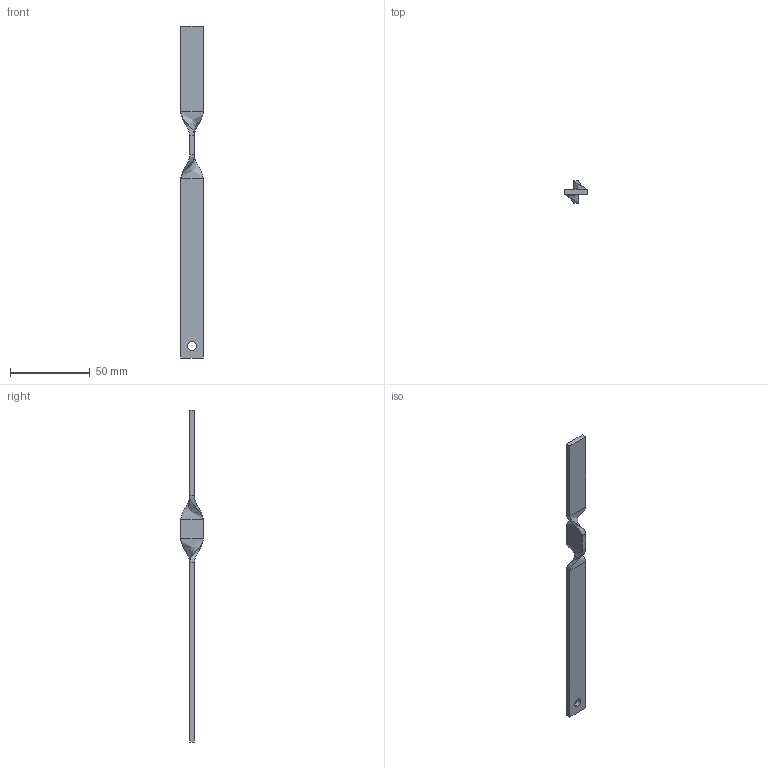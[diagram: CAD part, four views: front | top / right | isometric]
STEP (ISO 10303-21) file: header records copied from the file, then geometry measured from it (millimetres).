
FILE_DESCRIPTION (( 'STEP AP214' ), '1' );
FILE_NAME ('P190-210.STEP', '2016-08-18T08:41:44', ( 'RST-Dolba' ), ( '' ), 'SwSTEP 2.0', 'SolidWorks 2015', '' );
FILE_SCHEMA (( 'AUTOMOTIVE_DESIGN' ));
Length unit declared in the file: millimetre
Products named in the file (1): P190-210
Bounding box: 14 x 14 x 208.5 mm (x, y, z)
Volume: 8369.9 mm3; surface area: 7088 mm2
Topology: 1 solids, 1 shells, 24 faces, 50 edges, 28 vertices
Faces by surface type: plane 14, bspline 8, cylinder 2
Entity records: 784 total; most frequent: CARTESIAN_POINT 279, ORIENTED_EDGE 100, DIRECTION 80, EDGE_CURVE 50, VECTOR 38, LINE 38, VERTEX_POINT 28, EDGE_LOOP 26
